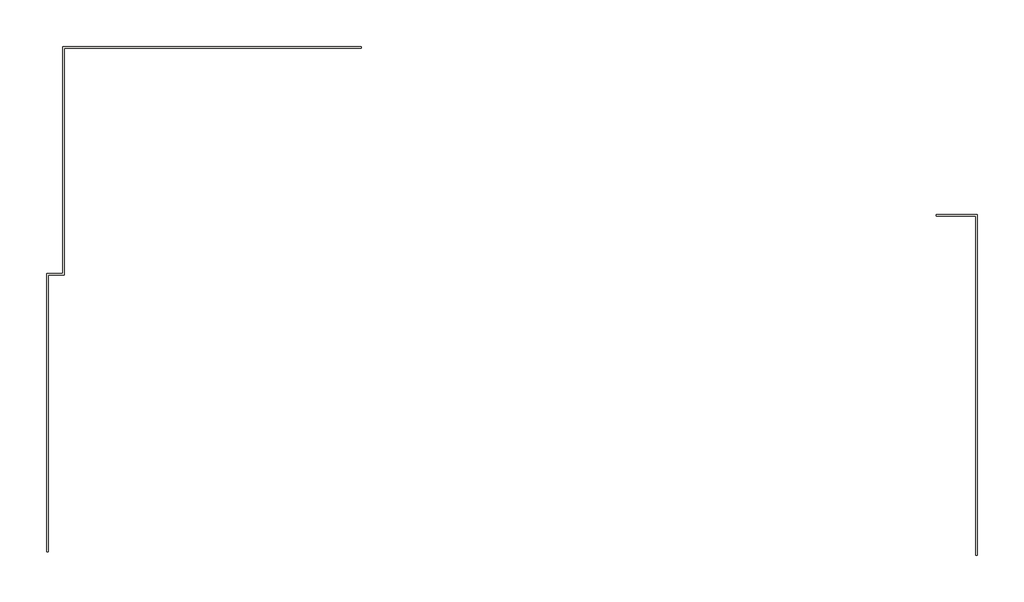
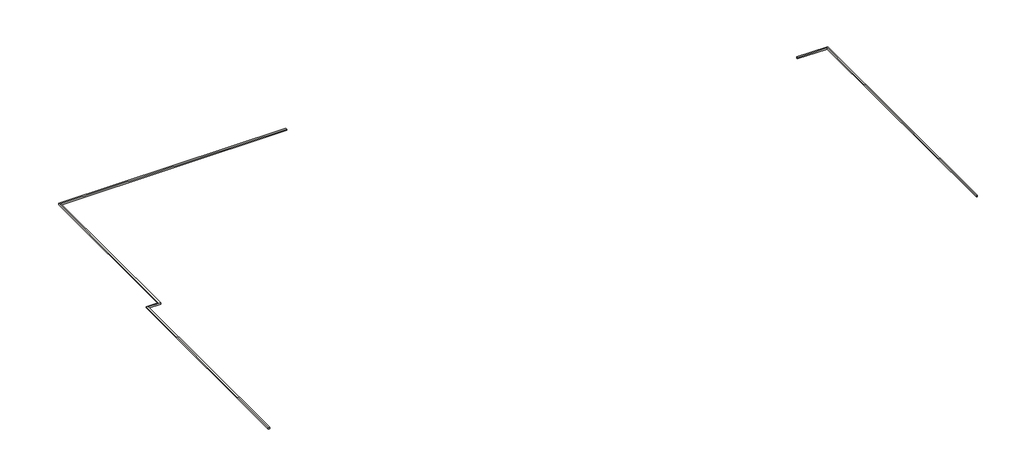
# One storey: 2 walls.
"""IFC4 building model written with IfcOpenShell, lengths in millimetres."""

from ifc_helpers import new_model, si_unit, origin, place, context, project, spatial, transform, mapped, element, save
from components import walls_1_walls_1_262d12b9, walls_2_walls_2_ebb16d3f

model = new_model("IFC4")

# Units and contexts
model_context = context("Model", 3, world=origin())
ifc_project = project(units=[si_unit("LENGTHUNIT", "METRE", prefix="MILLI")], contexts=[model_context])

# Site, building, storey
site = spatial("IfcSite", under=ifc_project)
building = spatial("IfcBuilding", under=site)
storey = spatial("IfcBuildingStorey", under=building, Name="U/S of Level 1", Elevation=-304.8)

# Walls
placement = place(None, origin())
walls_1_walls_1_shape = walls_1_walls_1_262d12b9(model_context)
element("IfcWall", 1, ObjectType="Walls 1 : Walls 1", at=placement, inside=storey, context=model_context, shape_type="MappedRepresentation", body=[
    mapped(walls_1_walls_1_shape, transform((0.0, 0.0, 0.0), x_axis=(1.0, 0.0, 0.0), y_axis=(0.0, 1.0, 0.0), z_axis=(0.0, 0.0, 1.0))),
])
walls_2_walls_2_shape = walls_2_walls_2_ebb16d3f(model_context)
element("IfcWall", 2, ObjectType="Walls 2 : Walls 2", at=placement, inside=storey, context=model_context, shape_type="MappedRepresentation", body=[
    mapped(walls_2_walls_2_shape, transform((0.0, 0.0, 0.0), x_axis=(1.0, 0.0, 0.0), y_axis=(0.0, 1.0, 0.0), z_axis=(0.0, 0.0, 1.0))),
])

save(model, "model.ifc")
